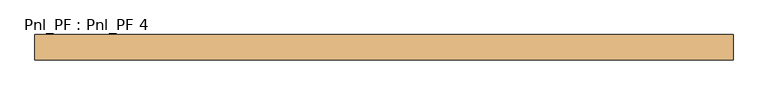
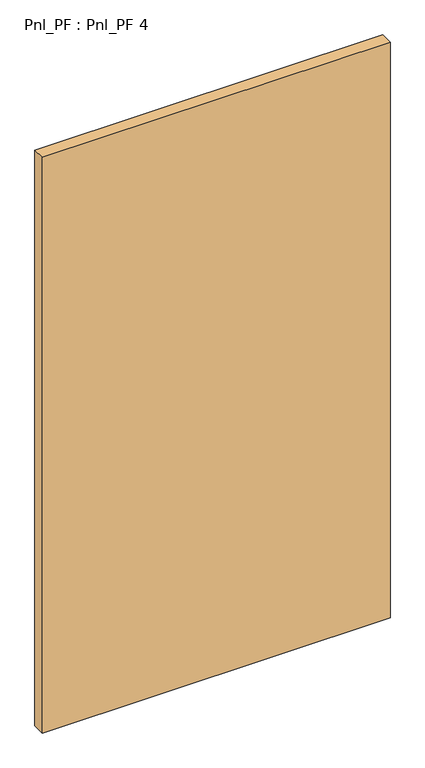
"""IFC4 building model written with IfcOpenShell, lengths in millimetres: door geometry, Pnl_PF : Pnl_PF 4."""

from ifc_helpers import new_model, si_unit, origin, origin_with_axes, place, context, project, spatial, polyline, outline, extrude, source, transform, mapped, element, save


def pnl_pf_pnl_pf_4_4e0c7a73(model_context):
    return source(origin(), model_context, "Body", "SweptSolid", [
        extrude(outline(polyline([(1219.2, -44.45), (0.0, -44.45), (0.0, 0.0), (1219.2, 0.0), (1219.2, -44.45)])), origin_with_axes(), (0.0, 0.0, 1.0), 2133.6),
    ])


if __name__ == "__main__":
    model = new_model("IFC4")
    model_context = context("Model", 3, world=origin())
    ifc_project = project(units=[si_unit("LENGTHUNIT", "METRE", prefix="MILLI")], contexts=[model_context])
    site = spatial("IfcSite", under=ifc_project)
    building = spatial("IfcBuilding", under=site)
    placement = place(None, origin())
    pnl_pf_pnl_pf_4_shape = pnl_pf_pnl_pf_4_4e0c7a73(model_context)
    element("IfcDoor", 1, ObjectType="Pnl_PF : Pnl_PF 4", at=placement, inside=building, context=model_context, shape_type="MappedRepresentation", body=[
        mapped(pnl_pf_pnl_pf_4_shape, transform((0.0, 0.0, 0.0), x_axis=(1.0, 0.0, 0.0), y_axis=(0.0, 1.0, 0.0), z_axis=(0.0, 0.0, 1.0))),
    ])
    save(model, "model.ifc")
